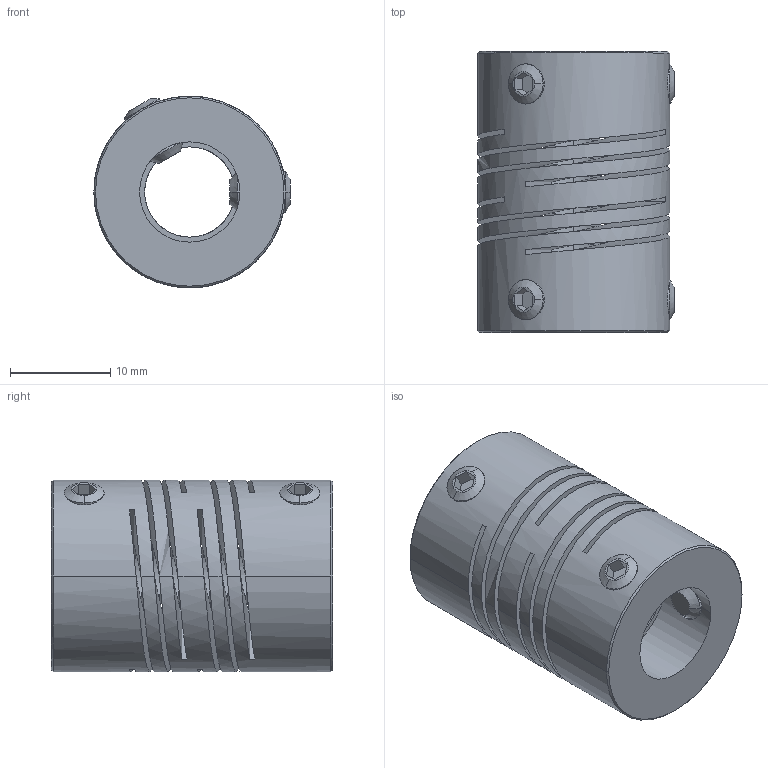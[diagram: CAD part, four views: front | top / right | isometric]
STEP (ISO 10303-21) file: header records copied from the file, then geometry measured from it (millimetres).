
FILE_DESCRIPTION((''),'2;1');
FILE_NAME('702_19_ASM','2006-12-06T',('Gary Melling'),(''),'PRO/ENGINEER BY PARAMETRIC TECHNOLOGY CORPORATION, 2006240','PRO/ENGINEER BY PARAMETRIC TECHNOLOGY CORPORATION, 2006240','');
FILE_SCHEMA(('CONFIG_CONTROL_DESIGN'));
Length unit declared in the file: millimetre
Products named in the file (3): 702_19; GS_4; 702_19_ASM
Assembly tree (5 placements, depth 2):
  702_19_ASM
    702_19
    GS_4  x4
Bounding box: 19.55 x 28 x 19.1 mm (x, y, z)
Volume: 5437.6 mm3; surface area: 5832.1 mm2
Topology: 5 solids, 5 shells, 120 faces, 328 edges, 208 vertices
Faces by surface type: plane 52, cylinder 36, cone 20, bspline 12
Entity records: 4649 total; most frequent: CARTESIAN_POINT 2626, ORIENTED_EDGE 464, DIRECTION 318, EDGE_CURVE 232, VERTEX_POINT 148, VECTOR 120, LINE 120, AXIS2_PLACEMENT_3D 99
